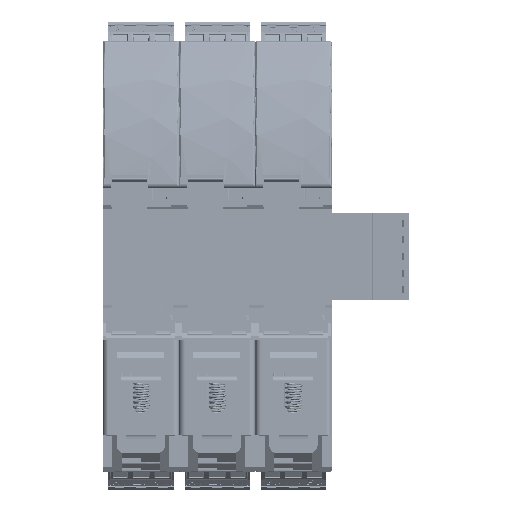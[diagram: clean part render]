
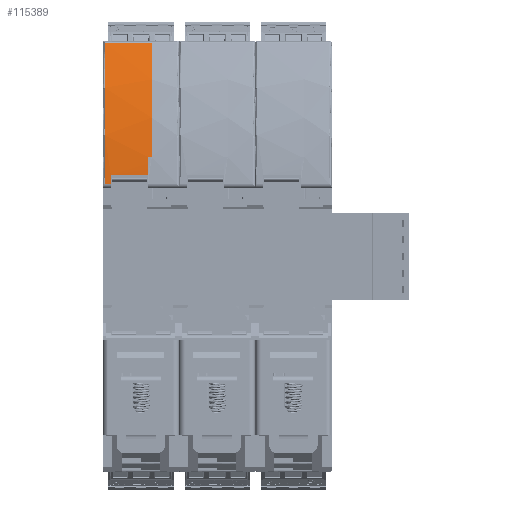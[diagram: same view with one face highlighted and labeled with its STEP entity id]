
A CAD part, front view. The second image highlights one B-rep face of the part: STEP entity #115389.
In plain terms, the highlighted cylindrical face has radius 80 mm (diameter 160 mm), a partial arc.
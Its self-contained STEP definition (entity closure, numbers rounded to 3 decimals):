
#115389=ADVANCED_FACE('',(#248899),#248901,.T.);
#248899=FACE_BOUND('',#248900,.T.);
#248900=EDGE_LOOP('',(#354350,#354351,#354352,#354353,#354354,#354355,#354356,#354357));
#248901=CYLINDRICAL_SURFACE('',#248902,80.);
#248902=AXIS2_PLACEMENT_3D('',#248903,#248904,#248905);
#248903=CARTESIAN_POINT('',(-1.7,13.5,75.75));
#248904=DIRECTION('',(-1.,0.,0.));
#248905=DIRECTION('',(0.,-1.,0.));
#354350=ORIENTED_EDGE('',*,*,#413629,.F.);
#354351=ORIENTED_EDGE('',*,*,#413630,.T.);
#354352=ORIENTED_EDGE('',*,*,#413631,.F.);
#354353=ORIENTED_EDGE('',*,*,#413632,.T.);
#354354=ORIENTED_EDGE('',*,*,#413633,.F.);
#354355=ORIENTED_EDGE('',*,*,#413634,.T.);
#354356=ORIENTED_EDGE('',*,*,#413336,.T.);
#354357=ORIENTED_EDGE('',*,*,#413334,.T.);
#413334=EDGE_CURVE('',#480495,#480493,#480496,.T.);
#413336=EDGE_CURVE('',#480498,#480495,#480499,.T.);
#413629=EDGE_CURVE('',#481019,#480493,#481021,.T.);
#413630=EDGE_CURVE('',#481019,#481022,#481023,.T.);
#413631=EDGE_CURVE('',#481024,#481022,#481025,.T.);
#413632=EDGE_CURVE('',#481024,#481026,#481027,.T.);
#413633=EDGE_CURVE('',#481028,#481026,#481029,.T.);
#413634=EDGE_CURVE('',#481028,#480498,#481030,.T.);
#480493=VERTEX_POINT('',#643899);
#480495=VERTEX_POINT('',#643904);
#480496=LINE('',#643905,#643906);
#480498=VERTEX_POINT('',#643960);
#480499=CIRCLE('',#643961,80.);
#481019=VERTEX_POINT('',#645541);
#481021=CIRCLE('',#645545,80.);
#481022=VERTEX_POINT('',#645549);
#481023=LINE('',#645550,#645551);
#481024=VERTEX_POINT('',#645553);
#481025=CIRCLE('',#645554,80.);
#481026=VERTEX_POINT('',#645558);
#481027=LINE('',#645559,#645560);
#481028=VERTEX_POINT('',#645562);
#481029=CIRCLE('',#645563,80.);
#481030=LINE('',#645567,#645568);
#643899=CARTESIAN_POINT('',(6.9,16.741,-4.184));
#643904=CARTESIAN_POINT('',(8.3,16.741,-4.184));
#643905=CARTESIAN_POINT('',(8.3,16.741,-4.184));
#643906=VECTOR('',#643907,1.);
#643907=DIRECTION('',(-1.,0.,0.));
#643960=CARTESIAN_POINT('',(8.3,49.223,4.169));
#643961=AXIS2_PLACEMENT_3D('',#643962,#643963,#643964);
#643962=CARTESIAN_POINT('',(8.3,13.5,75.75));
#643963=DIRECTION('',(-1.,0.,0.));
#643964=DIRECTION('',(0.,0.447,-0.895));
#645541=CARTESIAN_POINT('',(6.9,18.7,-4.081));
#645545=AXIS2_PLACEMENT_3D('',#645546,#645547,#645548);
#645546=CARTESIAN_POINT('',(6.9,13.5,75.75));
#645547=DIRECTION('',(-1.,0.,0.));
#645548=DIRECTION('',(0.,0.065,-0.998));
#645549=CARTESIAN_POINT('',(-1.7,18.7,-4.081));
#645550=CARTESIAN_POINT('',(6.9,18.7,-4.081));
#645551=VECTOR('',#645552,1.);
#645552=DIRECTION('',(-1.,0.,0.));
#645553=CARTESIAN_POINT('',(-1.7,22.9,-3.696));
#645554=AXIS2_PLACEMENT_3D('',#645555,#645556,#645557);
#645555=CARTESIAN_POINT('',(-1.7,13.5,75.75));
#645556=DIRECTION('',(-1.,0.,0.));
#645557=DIRECTION('',(0.,0.118,-0.993));
#645558=CARTESIAN_POINT('',(-2.5,22.9,-3.696));
#645559=CARTESIAN_POINT('',(-1.7,22.9,-3.696));
#645560=VECTOR('',#645561,1.);
#645561=DIRECTION('',(-1.,0.,0.));
#645562=CARTESIAN_POINT('',(-2.5,49.223,4.169));
#645563=AXIS2_PLACEMENT_3D('',#645564,#645565,#645566);
#645564=CARTESIAN_POINT('',(-2.5,13.5,75.75));
#645565=DIRECTION('',(-1.,0.,0.));
#645566=DIRECTION('',(0.,0.447,-0.895));
#645567=CARTESIAN_POINT('',(-2.5,49.223,4.169));
#645568=VECTOR('',#645569,1.);
#645569=DIRECTION('',(1.,0.,0.));
